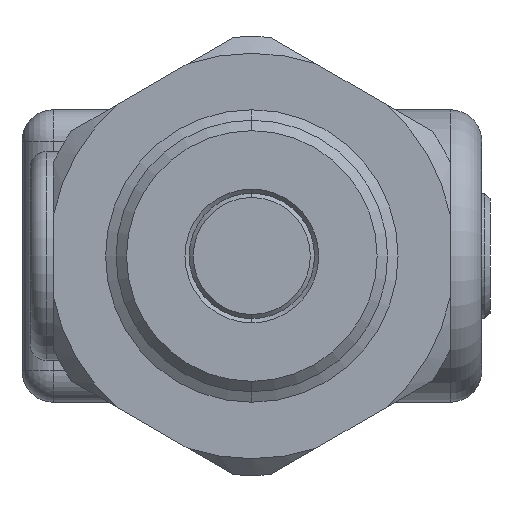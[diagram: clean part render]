
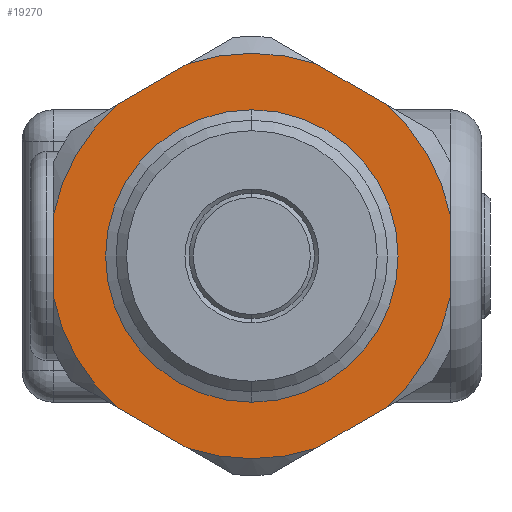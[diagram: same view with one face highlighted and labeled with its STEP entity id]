
A CAD part, front view. The second image highlights one B-rep face of the part: STEP entity #19270.
In plain terms, the highlighted planar face has unit normal (0, -1, 0).
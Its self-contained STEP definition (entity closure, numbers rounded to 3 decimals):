
#155 = CIRCLE ( 'NONE', #15714, 9.7 ) ;
#470 = DIRECTION ( 'NONE',  ( 0., -1., 0. ) ) ;
#528 = CIRCLE ( 'NONE', #5716, 9.7 ) ;
#555 = DIRECTION ( 'NONE',  ( 0., -1., 0. ) ) ;
#601 = CARTESIAN_POINT ( 'NONE',  ( -5.706, 7.101, 21. ) ) ;
#766 = VERTEX_POINT ( 'NONE', #19779 ) ;
#906 = EDGE_CURVE ( 'NONE', #1345, #766, #528, .T. ) ;
#1345 = VERTEX_POINT ( 'NONE', #7925 ) ;
#1613 = DIRECTION ( 'NONE',  ( -0.5, 0., 0.866 ) ) ;
#2490 = ORIENTED_EDGE ( 'NONE', *, *, #18697, .T. ) ;
#2539 = VECTOR ( 'NONE', #20099, 1000. ) ;
#3771 = VERTEX_POINT ( 'NONE', #12977 ) ;
#3847 = DIRECTION ( 'NONE',  ( -0.5, 0., 0.866 ) ) ;
#4035 = ORIENTED_EDGE ( 'NONE', *, *, #906, .T. ) ;
#4268 = CARTESIAN_POINT ( 'NONE',  ( -8.759, 7.101, 30.207 ) ) ;
#4371 = EDGE_CURVE ( 'NONE', #18727, #18299, #9344, .T. ) ;
#4546 = DIRECTION ( 'NONE',  ( -0.5, 0., 0.866 ) ) ;
#4608 = CARTESIAN_POINT ( 'NONE',  ( -8.759, 7.101, 11.793 ) ) ;
#4640 = DIRECTION ( 'NONE',  ( 0., -1., 0. ) ) ;
#5402 = ORIENTED_EDGE ( 'NONE', *, *, #11984, .T. ) ;
#5716 = AXIS2_PLACEMENT_3D ( 'NONE', #15105, #20231, #5972 ) ;
#5972 = DIRECTION ( 'NONE',  ( -0.5, 0., 0.866 ) ) ;
#5985 = EDGE_CURVE ( 'NONE', #9807, #10180, #155, .T. ) ;
#6130 = CARTESIAN_POINT ( 'NONE',  ( -0.956, 7.101, 12.773 ) ) ;
#6241 = DIRECTION ( 'NONE',  ( -0.5, 0., 0.866 ) ) ;
#6421 = DIRECTION ( 'NONE',  ( 0., 0., -1. ) ) ;
#6537 = LINE ( 'NONE', #17201, #15401 ) ;
#6700 = DIRECTION ( 'NONE',  ( -0.5, 0., 0.866 ) ) ;
#6915 = CIRCLE ( 'NONE', #14681, 9.7 ) ;
#7443 = EDGE_LOOP ( 'NONE', ( #11121, #15620 ) ) ;
#7460 = CARTESIAN_POINT ( 'NONE',  ( -2.653, 7.101, 11.793 ) ) ;
#7925 = CARTESIAN_POINT ( 'NONE',  ( -15.206, 7.101, 19.04 ) ) ;
#8441 = CARTESIAN_POINT ( 'NONE',  ( -5.706, 7.101, 21. ) ) ;
#8561 = PLANE ( 'NONE',  #10624 ) ;
#8748 = CARTESIAN_POINT ( 'NONE',  ( -0.956, 7.101, 29.227 ) ) ;
#8804 = CIRCLE ( 'NONE', #15859, 6.25 ) ;
#9344 = CIRCLE ( 'NONE', #22381, 9.7 ) ;
#9348 = LINE ( 'NONE', #6130, #9583 ) ;
#9583 = VECTOR ( 'NONE', #13179, 1000. ) ;
#9674 = VERTEX_POINT ( 'NONE', #15249 ) ;
#9742 = CARTESIAN_POINT ( 'NONE',  ( 0.741, 7.101, 28.247 ) ) ;
#9791 = CARTESIAN_POINT ( 'NONE',  ( -5.706, 7.101, 21. ) ) ;
#9807 = VERTEX_POINT ( 'NONE', #11279 ) ;
#10003 = DIRECTION ( 'NONE',  ( 0., -1., 0. ) ) ;
#10098 = CARTESIAN_POINT ( 'NONE',  ( -15.206, 7.101, 21. ) ) ;
#10141 = DIRECTION ( 'NONE',  ( 0., -1., 0. ) ) ;
#10180 = VERTEX_POINT ( 'NONE', #9742 ) ;
#10191 = VECTOR ( 'NONE', #6421, 1000. ) ;
#10243 = AXIS2_PLACEMENT_3D ( 'NONE', #21088, #22840, #19776 ) ;
#10296 = AXIS2_PLACEMENT_3D ( 'NONE', #20515, #10141, #6241 ) ;
#10348 = DIRECTION ( 'NONE',  ( -0.866, 0., -0.5 ) ) ;
#10455 = CARTESIAN_POINT ( 'NONE',  ( -10.456, 7.101, 29.227 ) ) ;
#10624 = AXIS2_PLACEMENT_3D ( 'NONE', #8441, #22650, #6700 ) ;
#11112 = CARTESIAN_POINT ( 'NONE',  ( -5.706, 7.101, 21. ) ) ;
#11121 = ORIENTED_EDGE ( 'NONE', *, *, #19182, .T. ) ;
#11156 = EDGE_CURVE ( 'NONE', #18299, #11158, #19085, .T. ) ;
#11158 = VERTEX_POINT ( 'NONE', #13700 ) ;
#11279 = CARTESIAN_POINT ( 'NONE',  ( 3.794, 7.101, 22.96 ) ) ;
#11347 = VERTEX_POINT ( 'NONE', #7460 ) ;
#11463 = VERTEX_POINT ( 'NONE', #11699 ) ;
#11467 = CARTESIAN_POINT ( 'NONE',  ( -15.206, 7.101, 22.96 ) ) ;
#11694 = EDGE_CURVE ( 'NONE', #15685, #11347, #12473, .T. ) ;
#11699 = CARTESIAN_POINT ( 'NONE',  ( -2.581, 7.101, 15.587 ) ) ;
#11758 = VERTEX_POINT ( 'NONE', #15641 ) ;
#11903 = FACE_OUTER_BOUND ( 'NONE', #13711, .T. ) ;
#11984 = EDGE_CURVE ( 'NONE', #9674, #9807, #20560, .T. ) ;
#12183 = CARTESIAN_POINT ( 'NONE',  ( -2.653, 7.101, 30.207 ) ) ;
#12473 = CIRCLE ( 'NONE', #15463, 9.7 ) ;
#12651 = EDGE_CURVE ( 'NONE', #766, #15685, #6537, .T. ) ;
#12977 = CARTESIAN_POINT ( 'NONE',  ( -8.831, 7.101, 26.413 ) ) ;
#13179 = DIRECTION ( 'NONE',  ( 0.866, 0., 0.5 ) ) ;
#13522 = ORIENTED_EDGE ( 'NONE', *, *, #11694, .T. ) ;
#13700 = CARTESIAN_POINT ( 'NONE',  ( -12.153, 7.101, 28.247 ) ) ;
#13711 = EDGE_LOOP ( 'NONE', ( #5402, #18187, #17444, #18808, #17598, #22363, #2490, #4035, #15446, #13522, #14598, #19812 ) ) ;
#13825 = EDGE_CURVE ( 'NONE', #11158, #14561, #6915, .T. ) ;
#14076 = DIRECTION ( 'NONE',  ( -0.866, 0., 0.5 ) ) ;
#14561 = VERTEX_POINT ( 'NONE', #11467 ) ;
#14598 = ORIENTED_EDGE ( 'NONE', *, *, #14907, .T. ) ;
#14681 = AXIS2_PLACEMENT_3D ( 'NONE', #18870, #10003, #22826 ) ;
#14907 = EDGE_CURVE ( 'NONE', #11347, #11758, #9348, .T. ) ;
#14941 = CARTESIAN_POINT ( 'NONE',  ( -5.706, 7.101, 21. ) ) ;
#15105 = CARTESIAN_POINT ( 'NONE',  ( -5.706, 7.101, 21. ) ) ;
#15249 = CARTESIAN_POINT ( 'NONE',  ( 3.794, 7.101, 19.04 ) ) ;
#15401 = VECTOR ( 'NONE', #22468, 1000. ) ;
#15420 = VECTOR ( 'NONE', #10348, 1000. ) ;
#15446 = ORIENTED_EDGE ( 'NONE', *, *, #12651, .T. ) ;
#15463 = AXIS2_PLACEMENT_3D ( 'NONE', #14941, #4640, #4546 ) ;
#15620 = ORIENTED_EDGE ( 'NONE', *, *, #16733, .T. ) ;
#15641 = CARTESIAN_POINT ( 'NONE',  ( 0.741, 7.101, 13.753 ) ) ;
#15685 = VERTEX_POINT ( 'NONE', #4608 ) ;
#15714 = AXIS2_PLACEMENT_3D ( 'NONE', #9791, #555, #16544 ) ;
#15859 = AXIS2_PLACEMENT_3D ( 'NONE', #601, #20784, #1613 ) ;
#16544 = DIRECTION ( 'NONE',  ( -0.5, 0., 0.866 ) ) ;
#16733 = EDGE_CURVE ( 'NONE', #11463, #3771, #16912, .T. ) ;
#16912 = CIRCLE ( 'NONE', #10243, 6.25 ) ;
#16966 = LINE ( 'NONE', #10098, #10191 ) ;
#17201 = CARTESIAN_POINT ( 'NONE',  ( -10.456, 7.101, 12.773 ) ) ;
#17444 = ORIENTED_EDGE ( 'NONE', *, *, #22038, .T. ) ;
#17493 = EDGE_CURVE ( 'NONE', #11758, #9674, #18851, .T. ) ;
#17598 = ORIENTED_EDGE ( 'NONE', *, *, #11156, .T. ) ;
#17612 = FACE_BOUND ( 'NONE', #7443, .T. ) ;
#18187 = ORIENTED_EDGE ( 'NONE', *, *, #5985, .T. ) ;
#18299 = VERTEX_POINT ( 'NONE', #4268 ) ;
#18697 = EDGE_CURVE ( 'NONE', #14561, #1345, #16966, .T. ) ;
#18727 = VERTEX_POINT ( 'NONE', #12183 ) ;
#18808 = ORIENTED_EDGE ( 'NONE', *, *, #4371, .T. ) ;
#18851 = CIRCLE ( 'NONE', #10296, 9.7 ) ;
#18870 = CARTESIAN_POINT ( 'NONE',  ( -5.706, 7.101, 21. ) ) ;
#19085 = LINE ( 'NONE', #10455, #15420 ) ;
#19182 = EDGE_CURVE ( 'NONE', #3771, #11463, #8804, .T. ) ;
#19270 = ADVANCED_FACE ( 'NONE', ( #17612, #11903 ), #8561, .F. ) ;
#19776 = DIRECTION ( 'NONE',  ( -0.5, 0., 0.866 ) ) ;
#19779 = CARTESIAN_POINT ( 'NONE',  ( -12.153, 7.101, 13.753 ) ) ;
#19812 = ORIENTED_EDGE ( 'NONE', *, *, #17493, .T. ) ;
#19979 = VECTOR ( 'NONE', #14076, 1000. ) ;
#20099 = DIRECTION ( 'NONE',  ( 0., 0., 1. ) ) ;
#20231 = DIRECTION ( 'NONE',  ( 0., -1., 0. ) ) ;
#20515 = CARTESIAN_POINT ( 'NONE',  ( -5.706, 7.101, 21. ) ) ;
#20560 = LINE ( 'NONE', #21877, #2539 ) ;
#20784 = DIRECTION ( 'NONE',  ( 0., 1., 0. ) ) ;
#21088 = CARTESIAN_POINT ( 'NONE',  ( -5.706, 7.101, 21. ) ) ;
#21199 = LINE ( 'NONE', #8748, #19979 ) ;
#21877 = CARTESIAN_POINT ( 'NONE',  ( 3.794, 7.101, 21. ) ) ;
#22038 = EDGE_CURVE ( 'NONE', #10180, #18727, #21199, .T. ) ;
#22363 = ORIENTED_EDGE ( 'NONE', *, *, #13825, .T. ) ;
#22381 = AXIS2_PLACEMENT_3D ( 'NONE', #11112, #470, #3847 ) ;
#22468 = DIRECTION ( 'NONE',  ( 0.866, 0., -0.5 ) ) ;
#22650 = DIRECTION ( 'NONE',  ( 0., 1., 0. ) ) ;
#22826 = DIRECTION ( 'NONE',  ( -0.5, 0., 0.866 ) ) ;
#22840 = DIRECTION ( 'NONE',  ( 0., 1., 0. ) ) ;
